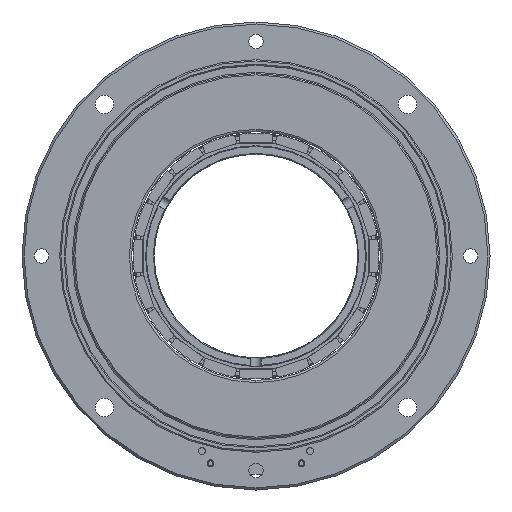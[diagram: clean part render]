
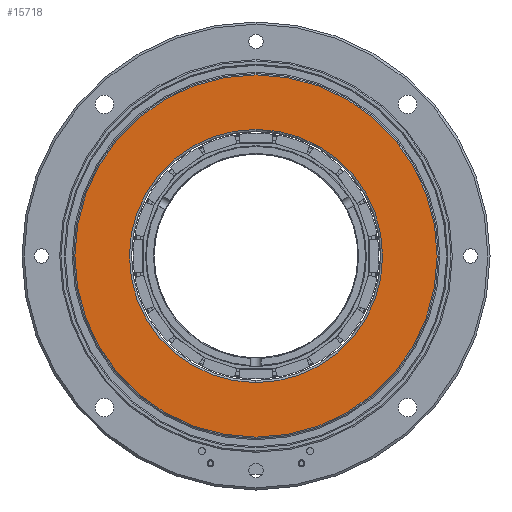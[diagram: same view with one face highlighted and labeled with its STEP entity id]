
A CAD part, left-side view. The second image highlights one B-rep face of the part: STEP entity #15718.
In plain terms, the highlighted planar face has unit normal (-1, 0, 0).
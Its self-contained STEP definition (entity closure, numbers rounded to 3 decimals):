
#4466=CARTESIAN_POINT('',(-19.2,0.,0.));
#4467=DIRECTION('',(1.,0.,0.));
#4468=DIRECTION('',(0.,0.,1.));
#4469=AXIS2_PLACEMENT_3D('',#4466,#4467,#4468);
#4474=CARTESIAN_POINT('',(-19.2,0.,0.));
#4475=DIRECTION('',(1.,0.,0.));
#4476=DIRECTION('',(0.,-0.002,1.));
#4477=AXIS2_PLACEMENT_3D('',#4474,#4475,#4476);
#4482=CARTESIAN_POINT('',(-19.2,0.,0.));
#4483=DIRECTION('',(1.,0.,0.));
#4484=DIRECTION('',(0.,0.,-1.));
#4485=AXIS2_PLACEMENT_3D('',#4482,#4483,#4484);
#4490=CARTESIAN_POINT('',(-19.2,0.,0.));
#4491=DIRECTION('',(1.,0.,0.));
#4492=DIRECTION('',(0.,0.002,-1.));
#4493=AXIS2_PLACEMENT_3D('',#4490,#4491,#4492);
#4498=CARTESIAN_POINT('',(-19.2,0.,0.));
#4499=DIRECTION('',(-1.,0.,0.));
#4500=DIRECTION('',(0.,0.,1.));
#4501=AXIS2_PLACEMENT_3D('',#4498,#4499,#4500);
#4506=CARTESIAN_POINT('',(-19.2,0.,0.));
#4507=DIRECTION('',(-1.,0.,0.));
#4508=DIRECTION('',(0.,0.,-1.));
#4509=AXIS2_PLACEMENT_3D('',#4506,#4507,#4508);
#4545=CARTESIAN_POINT('',(-19.2,0.,0.));
#4546=DIRECTION('',(1.,0.,0.));
#4547=DIRECTION('',(0.,0.,-1.));
#4548=AXIS2_PLACEMENT_3D('',#4545,#4546,#4547);
#4583=CARTESIAN_POINT('',(-19.2,0.,0.));
#4584=DIRECTION('',(1.,0.,0.));
#4585=DIRECTION('',(0.,0.,1.));
#4586=AXIS2_PLACEMENT_3D('',#4583,#4584,#4585);
#11539=CARTESIAN_POINT('',(-19.2,-0.076,41.8));
#11540=CARTESIAN_POINT('',(-19.2,0.,-41.8));
#11541=VERTEX_POINT('',#11539);
#11542=VERTEX_POINT('',#11540);
#11543=CARTESIAN_POINT('',(-19.2,0.,41.8));
#11544=VERTEX_POINT('',#11543);
#11545=CARTESIAN_POINT('',(-19.2,0.076,-41.8));
#11546=VERTEX_POINT('',#11545);
#11547=CARTESIAN_POINT('',(-19.2,0.,29.215));
#11548=CARTESIAN_POINT('',(-19.2,0.082,-29.215));
#11549=VERTEX_POINT('',#11547);
#11550=VERTEX_POINT('',#11548);
#11551=CARTESIAN_POINT('',(-19.2,0.,-29.215));
#11552=VERTEX_POINT('',#11551);
#11553=CARTESIAN_POINT('',(-19.2,-0.082,29.215));
#11554=VERTEX_POINT('',#11553);
#15695=CARTESIAN_POINT('',(-19.2,0.,0.));
#15696=DIRECTION('',(-1.,0.,0.));
#15697=DIRECTION('',(0.,0.,-1.));
#15698=AXIS2_PLACEMENT_3D('',#15695,#15696,#15697);
#15699=PLANE('',#15698);
#15700=ORIENTED_EDGE('',*,*,#15685,.T.);
#15701=ORIENTED_EDGE('',*,*,#15683,.T.);
#15703=ORIENTED_EDGE('',*,*,#15702,.T.);
#15705=ORIENTED_EDGE('',*,*,#15704,.T.);
#15706=EDGE_LOOP('',(#15700,#15701,#15703,#15705));
#15707=FACE_OUTER_BOUND('',#15706,.F.);
#15709=ORIENTED_EDGE('',*,*,#15708,.T.);
#15711=ORIENTED_EDGE('',*,*,#15710,.F.);
#15713=ORIENTED_EDGE('',*,*,#15712,.T.);
#15715=ORIENTED_EDGE('',*,*,#15714,.F.);
#15716=EDGE_LOOP('',(#15709,#15711,#15713,#15715));
#15717=FACE_BOUND('',#15716,.F.);
#15718=ADVANCED_FACE('',(#15707,#15717),#15699,.T.);
#4470=CIRCLE('',#4469,41.8);
#4478=CIRCLE('',#4477,41.8);
#4486=CIRCLE('',#4485,41.8);
#4494=CIRCLE('',#4493,41.8);
#4502=CIRCLE('',#4501,29.215);
#4510=CIRCLE('',#4509,29.215);
#4549=CIRCLE('',#4548,29.215);
#4587=CIRCLE('',#4586,29.215);
#15683=EDGE_CURVE('',#11541,#11542,#4478,.T.);
#15685=EDGE_CURVE('',#11544,#11541,#4470,.T.);
#15702=EDGE_CURVE('',#11542,#11546,#4486,.T.);
#15704=EDGE_CURVE('',#11546,#11544,#4494,.T.);
#15708=EDGE_CURVE('',#11549,#11550,#4502,.T.);
#15710=EDGE_CURVE('',#11552,#11550,#4549,.T.);
#15712=EDGE_CURVE('',#11552,#11554,#4510,.T.);
#15714=EDGE_CURVE('',#11549,#11554,#4587,.T.);
